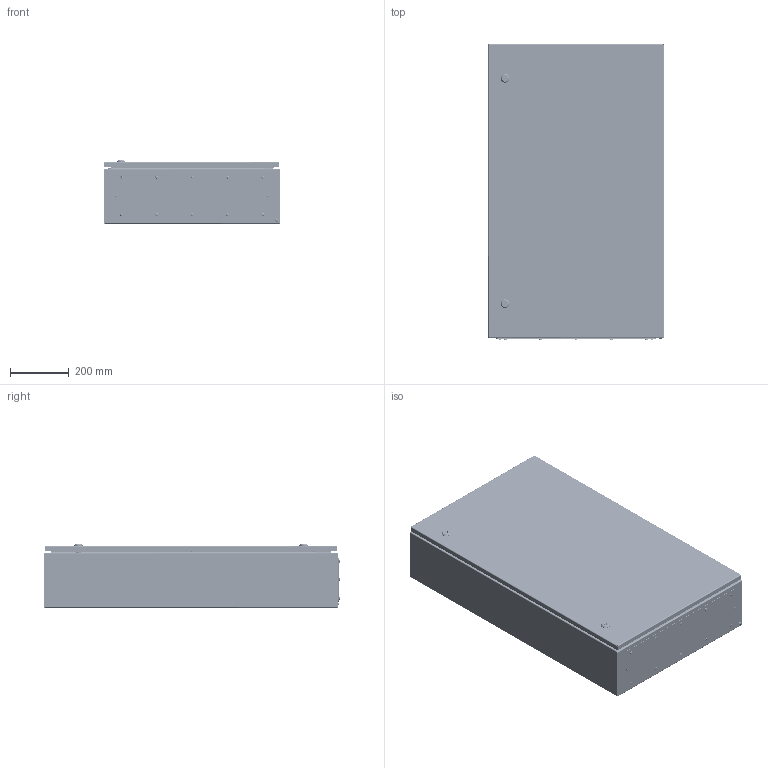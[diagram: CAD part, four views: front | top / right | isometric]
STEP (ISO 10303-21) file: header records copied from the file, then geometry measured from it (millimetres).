
FILE_DESCRIPTION (( 'STEP AP214' ), '1' );
FILE_NAME ('CCS 100.60.21 仃圄 觐祜嚓蝽.STEP', '2025-09-09T19:33:14', ( '' ), ( '' ), 'SwSTEP 2.0', 'SolidWorks 2019', '' );
FILE_SCHEMA (( 'AUTOMOTIVE_DESIGN' ));
Length unit declared in the file: millimetre
Products named in the file (29): pan head cross recess screw_din_DIN EN ISO 7045 - M5 x 6 - Z - 6N; CCS X.002 扰鍙欙樥燲CCS 100.002; Ïåòëÿ KIT_Ìîäóëü_êîðïóñíàÿ ÷àñòü; Essentra_d6,3_1287228; Ïåòëÿ ïðèâàðíàÿ ÷àñòü; KIT_Çàæèìíîå êîëüöî_ïîëèîêñèìåòèëåí_ô5_EMKA 1031-U16; Âèíò ðåçüáîâûäàâëèâàþùèé ñ ïîëóïîòàéíîé ãîëîâêîé Ì5õ12; KIT_Øòèôò_ô5_Ìîäóëü; Ãàéêà Ì8 DIN 934; Ïåòëÿ KIT_Ìîäóëü_êîðïóñíàÿ ÷àñòü â ñáîðå; Øïèëüêà çàçåìëåíèÿ Ì6õ17,5_˜¯¨«ìª  § §¥¬«¥­¨ï Œ6å17,5 á ª®«¯ çª®¬; plain washer grade a_din_Washer DIN 125 - A 5.3; Essentra_d9.3_055009300003; hex flange nut_din_Hexagon Flange Nut DIN 6923 - M8 - N; CCS X.Y.Z.01.000捘 扻豵鵨_CCS 100.60.21; CCS X.Y.02.001 拟屦黖CCS 100.60; MPC X.Y Ïàíåëü ìîíòàæíàÿ_MPC 100.60; Øïèëüêà çàçåìëåíèÿ Ì6õ17,5_˜¯¨«ìª  § §¥¬«¥­¨ï Œ6å17,5; CCS 100.60.21 仃圄 觐祜嚓蝽; CCS X.Y.02.000蚜 拟屦黖CCS 100.60; ﾇ瑟鶴 LC 5DB.S; Øïèëüêà Ì8õ25; Çàìîê LC 5DB.S_‡ ¬®ª LC 5DB.S_45mm; CCS X.Y.Z.01.001 扻豵鵨_CCS 100.60.21; ßçû÷îê çàìêà LC 5DB.S; PKV Y.15 相礤朦 赅徨朦眍泐 忖钿郷PKV 60(15)
Assembly tree (74 placements, depth 3):
  CCS 100.60.21 仃圄 觐祜嚓蝽
    CCS X.Y.Z.01.000捘 扻豵鵨_CCS 100.60.21
      CCS X.Y.Z.01.001 扻豵鵨_CCS 100.60.21
      Øïèëüêà çàçåìëåíèÿ Ì6õ17,5_˜¯¨«ìª  § §¥¬«¥­¨ï Œ6å17,5  x4
      Øïèëüêà Ì8õ25  x6
    Ïåòëÿ KIT_Ìîäóëü_êîðïóñíàÿ ÷àñòü â ñáîðå
      Ïåòëÿ KIT_Ìîäóëü_êîðïóñíàÿ ÷àñòü
      KIT_Øòèôò_ô5_Ìîäóëü
      KIT_Çàæèìíîå êîëüöî_ïîëèîêñèìåòèëåí_ô5_EMKA 1031-U16
    Ïåòëÿ KIT_Ìîäóëü_êîðïóñíàÿ ÷àñòü â ñáîðå
      Ïåòëÿ KIT_Ìîäóëü_êîðïóñíàÿ ÷àñòü
      KIT_Øòèôò_ô5_Ìîäóëü
      KIT_Çàæèìíîå êîëüöî_ïîëèîêñèìåòèëåí_ô5_EMKA 1031-U16
    Ïåòëÿ KIT_Ìîäóëü_êîðïóñíàÿ ÷àñòü â ñáîðå
      Ïåòëÿ KIT_Ìîäóëü_êîðïóñíàÿ ÷àñòü
      KIT_Øòèôò_ô5_Ìîäóëü
      KIT_Çàæèìíîå êîëüöî_ïîëèîêñèìåòèëåí_ô5_EMKA 1031-U16
    CCS X.Y.02.000蚜 拟屦黖CCS 100.60
      CCS X.Y.02.001 拟屦黖CCS 100.60
      Øïèëüêà çàçåìëåíèÿ Ì6õ17,5_˜¯¨«ìª  § §¥¬«¥­¨ï Œ6å17,5 á ª®«¯ çª®¬
      CCS X.002 扰鍙欙樥燲CCS 100.002  x2
      Ïåòëÿ ïðèâàðíàÿ ÷àñòü  x3
    MPC X.Y Ïàíåëü ìîíòàæíàÿ_MPC 100.60
    PKV Y.15 相礤朦 赅徨朦眍泐 忖钿郷PKV 60(15)
    pan head cross recess screw_din_DIN EN ISO 7045 - M5 x 6 - Z - 6N  x3
    plain washer grade a_din_Washer DIN 125 - A 5.3  x3
    Ãàéêà Ì8 DIN 934  x6
    hex flange nut_din_Hexagon Flange Nut DIN 6923 - M8 - N  x6
    Âèíò ðåçüáîâûäàâëèâàþùèé ñ ïîëóïîòàéíîé ãîëîâêîé Ì5õ12  x12
    Essentra_d9.3_055009300003
    Essentra_d6,3_1287228  x3
    Çàìîê LC 5DB.S_‡ ¬®ª LC 5DB.S_45mm
      ﾇ瑟鶴 LC 5DB.S
      ßçû÷îê çàìêà LC 5DB.S
    Çàìîê LC 5DB.S_‡ ¬®ª LC 5DB.S_45mm
      ﾇ瑟鶴 LC 5DB.S
      ßçû÷îê çàìêà LC 5DB.S
Bounding box: 600 x 1006.62 x 215 mm (x, y, z)
Volume: 4177926.4 mm3; surface area: 5399685.5 mm2
Topology: 71 solids, 71 shells, 3209 faces, 7989 edges, 4957 vertices
Faces by surface type: cylinder 1256, plane 1172, cone 376, bspline 199, torus 157, sphere 49
Entity records: 56081 total; most frequent: CARTESIAN_POINT 21288, ORIENTED_EDGE 6890, DIRECTION 6852, EDGE_CURVE 3445, AXIS2_PLACEMENT_3D 2574, VERTEX_POINT 2149, LINE 1704, VECTOR 1704
